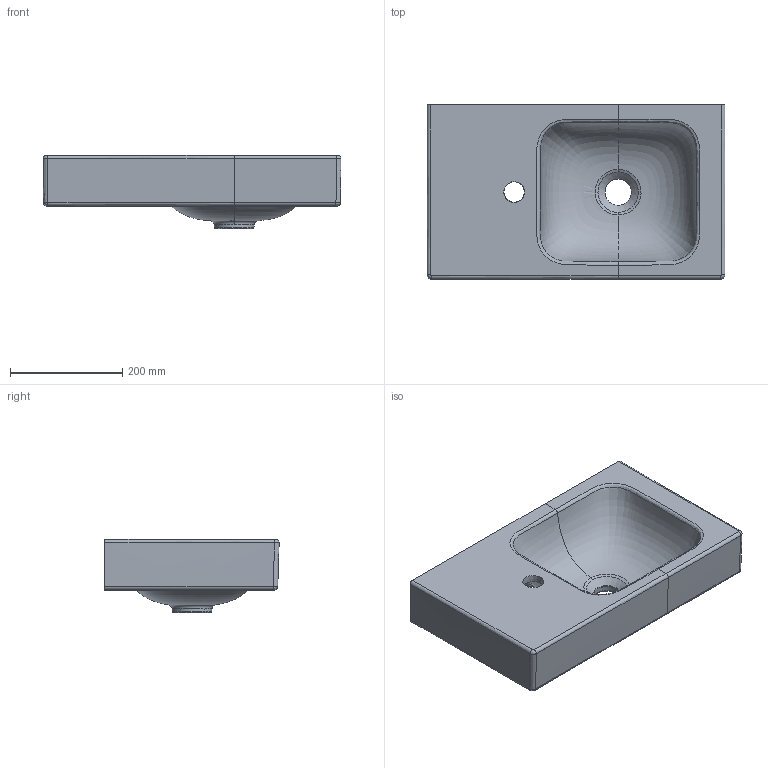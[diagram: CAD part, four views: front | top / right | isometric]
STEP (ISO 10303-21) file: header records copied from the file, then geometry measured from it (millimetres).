
FILE_DESCRIPTION(/* description */ (''),/* implementation_level */ '2;1');
FILE_NAME(/* name */ 'C:\Planerdaten\Export PLA\124153000\stp\124153000.stp',/* time_stamp */ '2020-05-29T12:41:58+02:00',/* author */ ('JANAN'),/* organization */ (''),/* preprocessor_version */ 'ST-DEVELOPER v16.13',/* originating_system */ 'Autodesk Inventor 2018',/* authorisation */ '');
FILE_SCHEMA (('AUTOMOTIVE_DESIGN { 1 0 10303 214 3 1 1 }'));
Products named in the file (1): HWB Ge+iCn B53 o/ÜLF m/HLo Abl-li
Bounding box: 530 x 309.84 x 130 mm (x, y, z)
Volume: 7833280.1 mm3; surface area: 572976.1 mm2
Topology: 1 solids, 1 shells, 309 faces, 730 edges, 422 vertices
Faces by surface type: bspline 159, cylinder 96, plane 51, cone 2, torus 1
Full cylindrical faces by diameter (mm): 47 x2
Entity records: 53586 total; most frequent: CARTESIAN_POINT 47100, ORIENTED_EDGE 1450, DIRECTION 1052, EDGE_CURVE 725, VERTEX_POINT 422, AXIS2_PLACEMENT_3D 405, EDGE_LOOP 317, STYLED_ITEM 310
